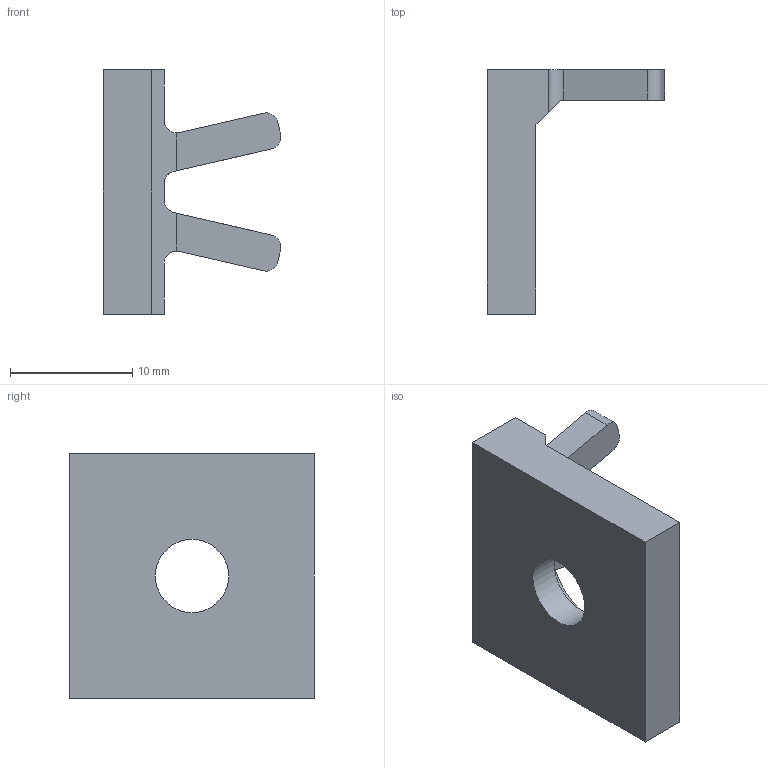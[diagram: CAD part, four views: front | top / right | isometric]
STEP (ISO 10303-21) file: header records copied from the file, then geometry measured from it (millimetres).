
FILE_DESCRIPTION(/* description */ (''),/* implementation_level */ '2;1');
FILE_NAME(/* name */ '/Users/davidflorian/Library/Mobile Documents/com~apple~CloudDocs/Vanderbilt/Papers/OTTO/Supplemental Material/3D-Printable-Components-STEP-Files/Pipette-Tip-Remover.step',/* time_stamp */ '2020-06-30T23:17:51-05:00',/* author */ (''),/* organization */ (''),/* preprocessor_version */ 'ST-DEVELOPER v18.1',/* originating_system */ 'Autodesk Translation Framework v9.3.0.1241',/* authorisation */ '');
FILE_SCHEMA (('AUTOMOTIVE_DESIGN { 1 0 10303 214 3 1 1 }'));
Length unit declared in the file: millimetre
Products named in the file (1): Moving-Remover
Bounding box: 14.54 x 20 x 20 mm (x, y, z)
Volume: 1649.6 mm3; surface area: 1391.9 mm2
Topology: 1 solids, 1 shells, 29 faces, 78 edges, 52 vertices
Faces by surface type: plane 19, cylinder 10
Full cylindrical faces by diameter (mm): 6 x1, 9.6 x1
Entity records: 951 total; most frequent: DIRECTION 160, CARTESIAN_POINT 160, ORIENTED_EDGE 156, EDGE_CURVE 78, LINE 56, VECTOR 56, VERTEX_POINT 52, AXIS2_PLACEMENT_3D 52
